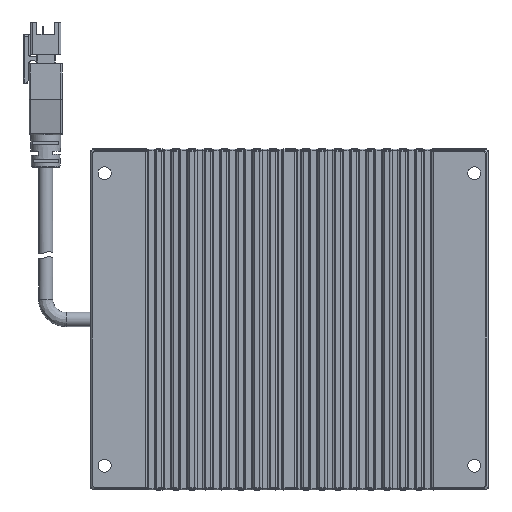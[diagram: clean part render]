
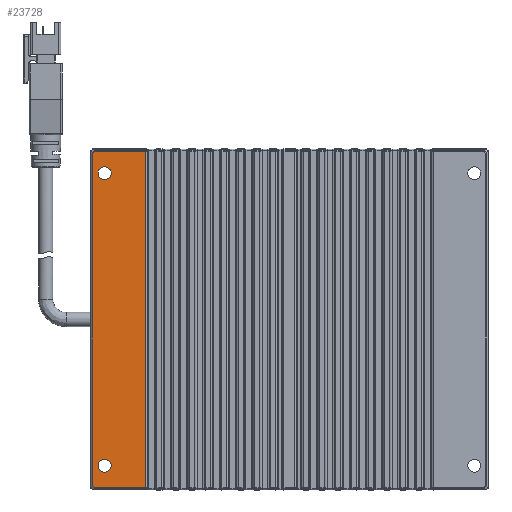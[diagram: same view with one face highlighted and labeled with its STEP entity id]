
A CAD part, front view. The second image highlights one B-rep face of the part: STEP entity #23728.
In plain terms, the highlighted planar face has unit normal (0, -1, 0).
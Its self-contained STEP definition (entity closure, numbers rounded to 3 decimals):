
#725 = VECTOR ( 'NONE', #27373, 1000. ) ;
#1431 = DIRECTION ( 'NONE',  ( 0., 1., 0. ) ) ;
#1607 = EDGE_CURVE ( 'NONE', #23927, #40320, #39478, .T. ) ;
#2387 = VERTEX_POINT ( 'NONE', #19515 ) ;
#2755 = ORIENTED_EDGE ( 'NONE', *, *, #1607, .T. ) ;
#3161 = LINE ( 'NONE', #29885, #37506 ) ;
#3420 = CARTESIAN_POINT ( 'NONE',  ( -48.433, 0., 40.806 ) ) ;
#3492 = DIRECTION ( 'NONE',  ( 1., 0., 0. ) ) ;
#3842 = ORIENTED_EDGE ( 'NONE', *, *, #25923, .T. ) ;
#5340 = CARTESIAN_POINT ( 'NONE',  ( -48.376, 0., 40.862 ) ) ;
#6409 = VERTEX_POINT ( 'NONE', #34808 ) ;
#7677 = ORIENTED_EDGE ( 'NONE', *, *, #17436, .T. ) ;
#8223 = CARTESIAN_POINT ( 'NONE',  ( -45.5, 0., -36. ) ) ;
#8659 = EDGE_CURVE ( 'NONE', #2387, #18599, #3161, .T. ) ;
#9088 = CARTESIAN_POINT ( 'NONE',  ( -48.376, 0., -40.862 ) ) ;
#11360 = ORIENTED_EDGE ( 'NONE', *, *, #41519, .T. ) ;
#11683 = CARTESIAN_POINT ( 'NONE',  ( 0., 0., 0. ) ) ;
#11972 = DIRECTION ( 'NONE',  ( 1., 0., 0. ) ) ;
#12021 = ORIENTED_EDGE ( 'NONE', *, *, #8659, .T. ) ;
#13564 = DIRECTION ( 'NONE',  ( 0., 1., 0. ) ) ;
#14842 = PLANE ( 'NONE',  #14946 ) ;
#14946 = AXIS2_PLACEMENT_3D ( 'NONE', #11683, #1431, #35661 ) ;
#16355 = VERTEX_POINT ( 'NONE', #17757 ) ;
#16859 = CIRCLE ( 'NONE', #33457, 1.6 ) ;
#16930 = EDGE_CURVE ( 'NONE', #40320, #16355, #19807, .T. ) ;
#17436 = EDGE_CURVE ( 'NONE', #41512, #41512, #33086, .T. ) ;
#17757 = CARTESIAN_POINT ( 'NONE',  ( -47.862, 0., -41.376 ) ) ;
#18599 = VERTEX_POINT ( 'NONE', #35395 ) ;
#18754 = LINE ( 'NONE', #26766, #35914 ) ;
#18760 = DIRECTION ( 'NONE',  ( 0.707, 0., -0.707 ) ) ;
#19515 = CARTESIAN_POINT ( 'NONE',  ( -35.39, 0., 41.376 ) ) ;
#19807 = LINE ( 'NONE', #32369, #21429 ) ;
#20595 = ORIENTED_EDGE ( 'NONE', *, *, #38403, .T. ) ;
#21251 = VECTOR ( 'NONE', #28539, 1000. ) ;
#21429 = VECTOR ( 'NONE', #18760, 1000. ) ;
#23188 = CARTESIAN_POINT ( 'NONE',  ( -48.376, 0., -40.873 ) ) ;
#23728 = ADVANCED_FACE ( 'NONE', ( #34447, #33355, #32270 ), #14842, .F. ) ;
#23927 = VERTEX_POINT ( 'NONE', #5340 ) ;
#24236 = ORIENTED_EDGE ( 'NONE', *, *, #16930, .T. ) ;
#24292 = VERTEX_POINT ( 'NONE', #32517 ) ;
#25211 = CARTESIAN_POINT ( 'NONE',  ( -35.394, 0., -41.376 ) ) ;
#25923 = EDGE_CURVE ( 'NONE', #18599, #23927, #39939, .T. ) ;
#26766 = CARTESIAN_POINT ( 'NONE',  ( -35.39, 0., 41.5 ) ) ;
#27373 = DIRECTION ( 'NONE',  ( -0.707, 0., -0.707 ) ) ;
#28539 = DIRECTION ( 'NONE',  ( 1., 0., 0. ) ) ;
#28847 = EDGE_CURVE ( 'NONE', #24292, #24292, #16859, .T. ) ;
#29006 = EDGE_LOOP ( 'NONE', ( #40062 ) ) ;
#29011 = DIRECTION ( 'NONE',  ( 0., 1., 0. ) ) ;
#29239 = VECTOR ( 'NONE', #29633, 1000. ) ;
#29633 = DIRECTION ( 'NONE',  ( 0., 0., -1. ) ) ;
#29885 = CARTESIAN_POINT ( 'NONE',  ( -47.873, 0., 41.376 ) ) ;
#30336 = LINE ( 'NONE', #25211, #21251 ) ;
#32270 = FACE_OUTER_BOUND ( 'NONE', #37635, .T. ) ;
#32369 = CARTESIAN_POINT ( 'NONE',  ( -47.806, 0., -41.433 ) ) ;
#32517 = CARTESIAN_POINT ( 'NONE',  ( -43.9, 0., 36. ) ) ;
#33086 = CIRCLE ( 'NONE', #38963, 1.6 ) ;
#33175 = DIRECTION ( 'NONE',  ( -1., 0., 0. ) ) ;
#33355 = FACE_BOUND ( 'NONE', #29006, .T. ) ;
#33457 = AXIS2_PLACEMENT_3D ( 'NONE', #44587, #13564, #3492 ) ;
#34447 = FACE_BOUND ( 'NONE', #40558, .T. ) ;
#34808 = CARTESIAN_POINT ( 'NONE',  ( -35.39, 0., -41.376 ) ) ;
#35395 = CARTESIAN_POINT ( 'NONE',  ( -47.862, 0., 41.376 ) ) ;
#35561 = CARTESIAN_POINT ( 'NONE',  ( -43.9, 0., -36. ) ) ;
#35661 = DIRECTION ( 'NONE',  ( 1., 0., 0. ) ) ;
#35914 = VECTOR ( 'NONE', #40940, 1000. ) ;
#37506 = VECTOR ( 'NONE', #33175, 1000. ) ;
#37635 = EDGE_LOOP ( 'NONE', ( #20595, #12021, #3842, #2755, #24236, #11360 ) ) ;
#38403 = EDGE_CURVE ( 'NONE', #6409, #2387, #18754, .T. ) ;
#38963 = AXIS2_PLACEMENT_3D ( 'NONE', #8223, #29011, #11972 ) ;
#39478 = LINE ( 'NONE', #23188, #29239 ) ;
#39939 = LINE ( 'NONE', #3420, #725 ) ;
#40062 = ORIENTED_EDGE ( 'NONE', *, *, #28847, .T. ) ;
#40320 = VERTEX_POINT ( 'NONE', #9088 ) ;
#40558 = EDGE_LOOP ( 'NONE', ( #7677 ) ) ;
#40940 = DIRECTION ( 'NONE',  ( 0., 0., 1. ) ) ;
#41512 = VERTEX_POINT ( 'NONE', #35561 ) ;
#41519 = EDGE_CURVE ( 'NONE', #16355, #6409, #30336, .T. ) ;
#44587 = CARTESIAN_POINT ( 'NONE',  ( -45.5, 0., 36. ) ) ;
